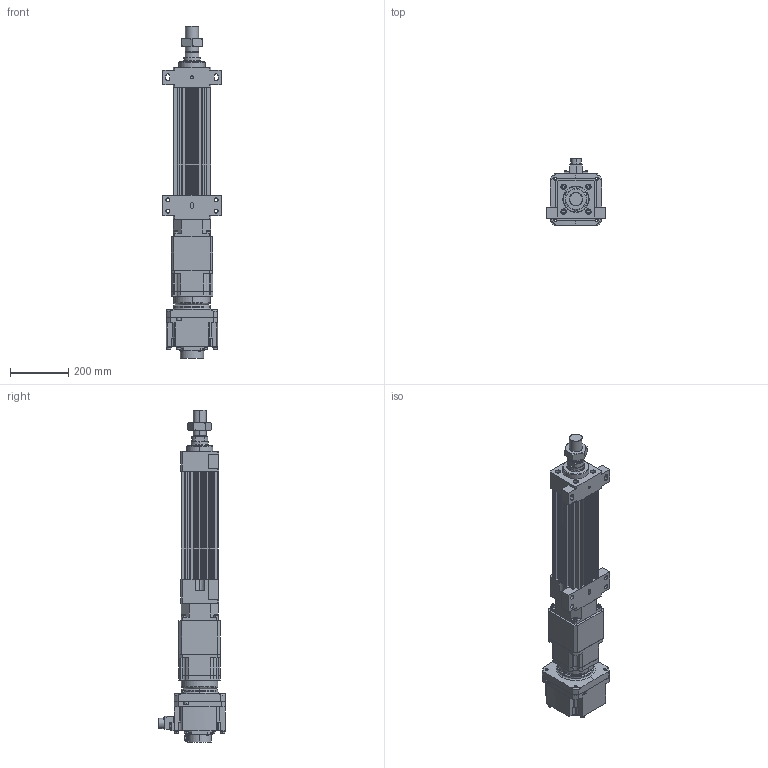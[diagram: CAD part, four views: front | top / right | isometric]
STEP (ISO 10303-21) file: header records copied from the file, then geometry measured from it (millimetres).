
FILE_DESCRIPTION (( 'STEP AP203' ), '1' );
FILE_NAME ('HES130FS(HS)-S150-W020G00-M-FFB.STEP', '2023-01-30T12:19:37', ( 'tms' ), ( '' ), 'SwSTEP 2.0', 'SolidWorks 2013', '' );
FILE_SCHEMA (( 'CONFIG_CONTROL_DESIGN' ));
Length unit declared in the file: millimetre
Products named in the file (9): HES130FS(HS)-S150-W020G00-M-FFB; P0403500801; AB142-003[HG-SR352]; HES130-S150-G142-FFB; HES130 ROD M ST150; M45X1.5P; HG-SR202; P1301500001; AB1421
Assembly tree (8 placements, depth 3):
  HES130FS(HS)-S150-W020G00-M-FFB
    HES130-S150-G142-FFB
    HES130 ROD M ST150
    M45X1.5P
    AB142-003[HG-SR352]
      AB1421
      P1301500001
      P0403500801
    HG-SR202
Bounding box: 200 x 228.85 x 1137.5 mm (x, y, z)
Volume: 10407727.9 mm3; surface area: 1286079.5 mm2
Topology: 4 solids, 22 shells, 1518 faces, 3922 edges, 2545 vertices
Faces by surface type: cylinder 676, plane 600, cone 160, bspline 76, torus 6
Entity records: 55270 total; most frequent: CARTESIAN_POINT 16778, DIRECTION 8032, ORIENTED_EDGE 7750, EDGE_CURVE 3897, AXIS2_PLACEMENT_3D 3016, VERTEX_POINT 2545, LINE 2000, VECTOR 2000
